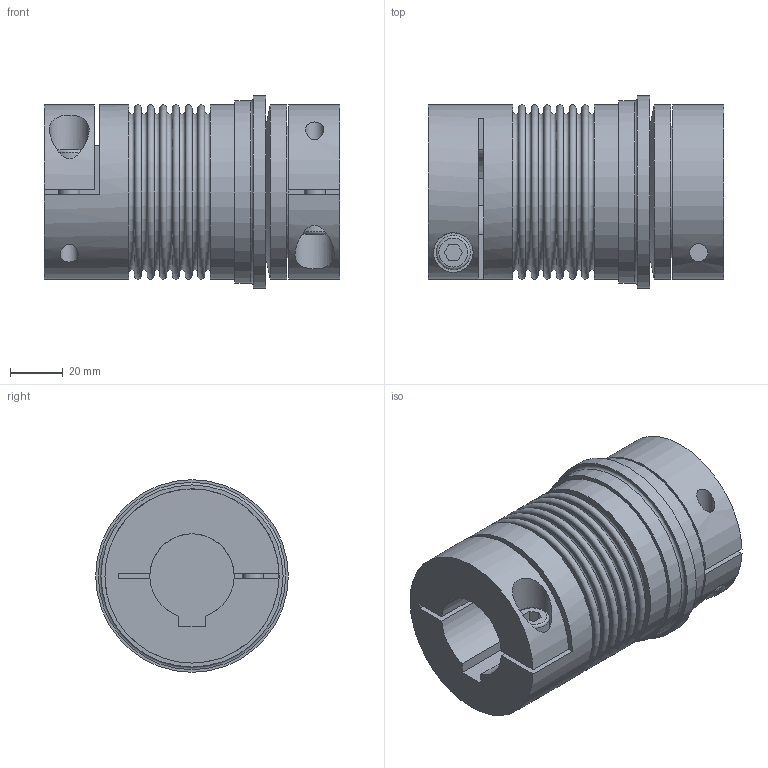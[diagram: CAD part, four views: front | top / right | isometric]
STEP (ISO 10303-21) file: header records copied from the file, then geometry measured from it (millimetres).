
FILE_DESCRIPTION(/* description */ ('STEP AP214'),/* implementation_level */ '2;1');
FILE_NAME(/* name */ 'C:\Diequa Files\DieQua Coupling\TB2\STP\TB2.60.112.WDG.#.#.stp',/* time_stamp */ '2019-04-26T10:42:44-05:00',/* author */ ('DiequaCAD'),/* organization */ (''),/* preprocessor_version */ 'ST-DEVELOPER v18',/* originating_system */ 'Autodesk Inventor 2020',/* authorisation */ ' ');
FILE_SCHEMA (('AUTOMOTIVE_DESIGN { 1 0 10303 214 3 1 1 }'));
Length unit declared in the file: millimetre
Products named in the file (1): TB2.60.112.WDG.#.#
Bounding box: 112 x 73 x 73 mm (x, y, z)
Volume: 315420 mm3; surface area: 57358.4 mm2
Topology: 1 solids, 1 shells, 98 faces, 232 edges, 164 vertices
Faces by surface type: plane 61, cylinder 20, torus 16, cone 1
Full cylindrical faces by diameter (mm): 6.8 x2, 8 x2, 9 x2, 13 x2, 15 x2, 50 x1, 66 x3, 69 x1, 73 x1
Entity records: 3121 total; most frequent: CARTESIAN_POINT 647, DIRECTION 547, ORIENTED_EDGE 464, EDGE_CURVE 232, AXIS2_PLACEMENT_3D 222, VERTEX_POINT 164, EDGE_LOOP 130, CIRCLE 123
